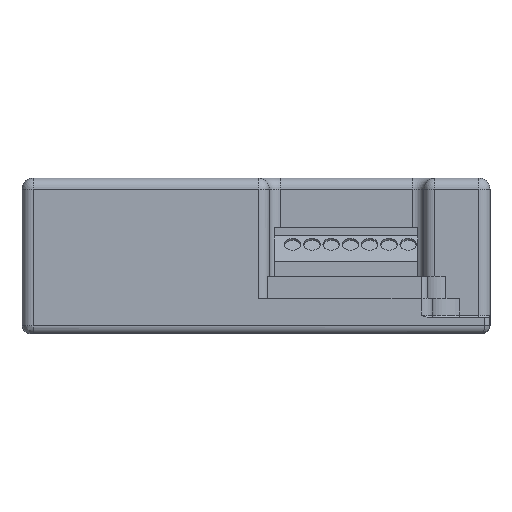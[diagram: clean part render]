
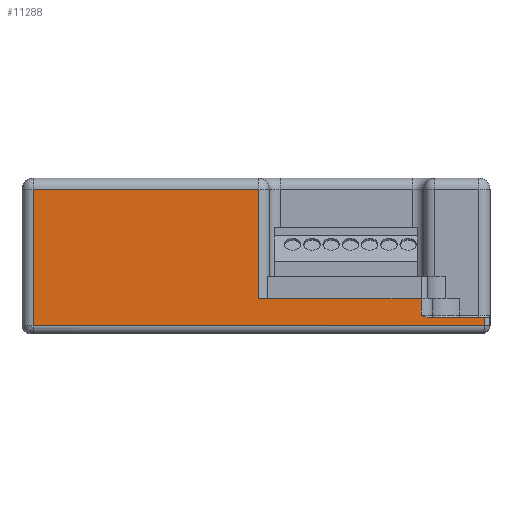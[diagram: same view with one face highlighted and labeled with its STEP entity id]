
A CAD part, front view. The second image highlights one B-rep face of the part: STEP entity #11288.
In plain terms, the highlighted planar face has unit normal (0, -1, 0).
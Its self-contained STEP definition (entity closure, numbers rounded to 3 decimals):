
#459=DIRECTION('',(-1.,0.,0.));
#460=VECTOR('',#459,10.173);
#461=CARTESIAN_POINT('',(41.5,-62.5,3.));
#462=LINE('',#461,#460);
#890=DIRECTION('',(-1.,0.,0.));
#891=VECTOR('',#890,29.6);
#892=CARTESIAN_POINT('',(30.,-62.5,6.45));
#893=LINE('',#892,#891);
#2397=DIRECTION('',(1.,0.,0.));
#2398=VECTOR('',#2397,40.9);
#2399=CARTESIAN_POINT('',(-40.5,-62.5,26.3));
#2400=LINE('',#2399,#2398);
#2404=DIRECTION('',(0.,0.,1.));
#2405=VECTOR('',#2404,19.85);
#2406=CARTESIAN_POINT('',(0.4,-62.5,6.45));
#2407=LINE('',#2406,#2405);
#2411=DIRECTION('',(0.,0.,1.));
#2412=VECTOR('',#2411,3.05);
#2413=CARTESIAN_POINT('',(30.,-62.5,3.4));
#2414=LINE('',#2413,#2412);
#2418=DIRECTION('',(0.,0.,-1.));
#2419=VECTOR('',#2418,1.5);
#2420=CARTESIAN_POINT('',(41.5,-62.5,3.));
#2421=LINE('',#2420,#2419);
#2425=DIRECTION('',(-1.,0.,0.));
#2426=VECTOR('',#2425,82.);
#2427=CARTESIAN_POINT('',(41.5,-62.5,1.5));
#2428=LINE('',#2427,#2426);
#2432=DIRECTION('',(0.,0.,-1.));
#2433=VECTOR('',#2432,24.8);
#2434=CARTESIAN_POINT('',(-40.5,-62.5,26.3));
#2435=LINE('',#2434,#2433);
#2968=CARTESIAN_POINT('',(41.5,-62.5,1.5));
#7206=CARTESIAN_POINT('',(31.327,-62.5,3.));
#7207=CARTESIAN_POINT('',(31.251,-62.5,3.));
#7208=CARTESIAN_POINT('',(31.094,-62.5,3.013));
#7209=CARTESIAN_POINT('',(30.842,-62.5,3.068));
#7210=CARTESIAN_POINT('',(30.576,-62.5,3.155));
#7211=CARTESIAN_POINT('',(30.296,-62.5,3.268));
#7212=CARTESIAN_POINT('',(30.101,-62.5,3.355));
#7213=CARTESIAN_POINT('',(30.,-62.5,3.4));
#8849=CARTESIAN_POINT('',(41.5,-62.5,3.));
#8851=VERTEX_POINT('',#8849);
#8854=VERTEX_POINT('',#2968);
#9002=CARTESIAN_POINT('',(0.4,-62.5,6.45));
#9003=CARTESIAN_POINT('',(0.4,-62.5,26.3));
#9004=VERTEX_POINT('',#9002);
#9005=VERTEX_POINT('',#9003);
#9008=CARTESIAN_POINT('',(-40.5,-62.5,1.5));
#9010=VERTEX_POINT('',#9008);
#9056=VERTEX_POINT('',#7206);
#9057=VERTEX_POINT('',#7213);
#9088=CARTESIAN_POINT('',(30.,-62.5,6.45));
#9090=VERTEX_POINT('',#9088);
#9368=CARTESIAN_POINT('',(-40.5,-62.5,26.3));
#9369=VERTEX_POINT('',#9368);
#11268=CARTESIAN_POINT('',(-42.5,-62.5,0.));
#11269=DIRECTION('',(0.,-1.,0.));
#11270=DIRECTION('',(1.,0.,0.));
#11271=AXIS2_PLACEMENT_3D('',#11268,#11269,#11270);
#11272=PLANE('',#11271);
#11273=ORIENTED_EDGE('',*,*,#11209,.T.);
#11274=ORIENTED_EDGE('',*,*,#11246,.F.);
#11275=ORIENTED_EDGE('',*,*,#10562,.F.);
#11277=ORIENTED_EDGE('',*,*,#11276,.F.);
#11279=ORIENTED_EDGE('',*,*,#11278,.F.);
#11280=ORIENTED_EDGE('',*,*,#10212,.F.);
#11282=ORIENTED_EDGE('',*,*,#11281,.T.);
#11284=ORIENTED_EDGE('',*,*,#11283,.T.);
#11285=ORIENTED_EDGE('',*,*,#11173,.F.);
#11286=EDGE_LOOP('',(#11273,#11274,#11275,#11277,#11279,#11280,#11282,#11284,
#11285));
#11287=FACE_OUTER_BOUND('',#11286,.F.);
#7214=B_SPLINE_CURVE_WITH_KNOTS('',3,(#7206,#7207,#7208,#7209,#7210,#7211,#7212,
#7213),.UNSPECIFIED.,.F.,.F.,(4,1,1,1,1,4),(0.,0.2,0.4,0.6,0.8,1.),
.UNSPECIFIED.);
#10212=EDGE_CURVE('',#8851,#9056,#462,.T.);
#10562=EDGE_CURVE('',#9090,#9004,#893,.T.);
#11173=EDGE_CURVE('',#9369,#9010,#2435,.T.);
#11209=EDGE_CURVE('',#9369,#9005,#2400,.T.);
#11246=EDGE_CURVE('',#9004,#9005,#2407,.T.);
#11276=EDGE_CURVE('',#9057,#9090,#2414,.T.);
#11278=EDGE_CURVE('',#9056,#9057,#7214,.T.);
#11281=EDGE_CURVE('',#8851,#8854,#2421,.T.);
#11283=EDGE_CURVE('',#8854,#9010,#2428,.T.);
#11288=ADVANCED_FACE('',(#11287),#11272,.T.);
